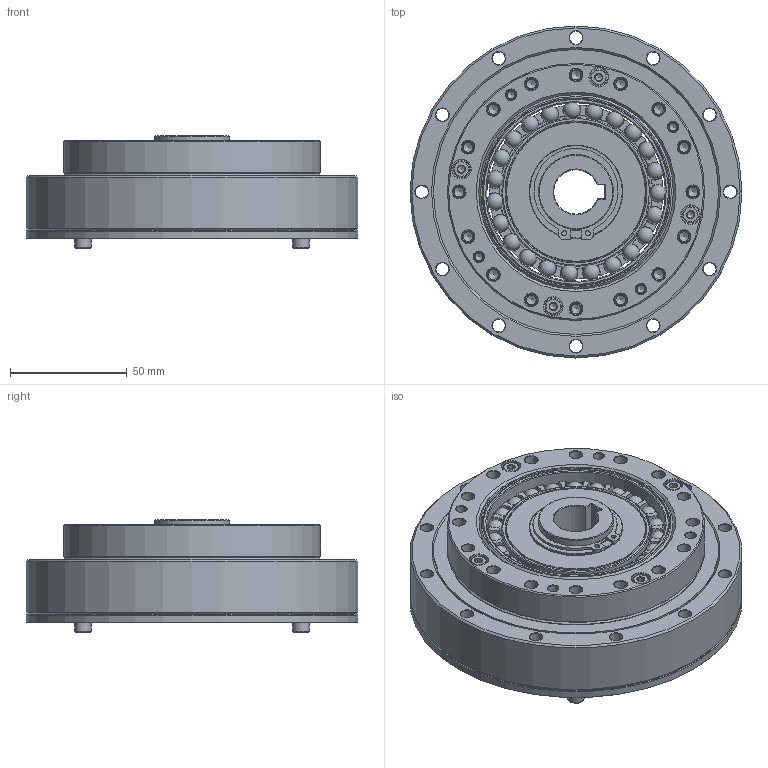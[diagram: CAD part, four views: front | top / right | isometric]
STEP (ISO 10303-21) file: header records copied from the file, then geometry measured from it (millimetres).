
FILE_DESCRIPTION(/* description */ (''),/* implementation_level */ '2;1');
FILE_NAME(/* name */ 'LHG-32-XX-U-II-φ19.stp',/* time_stamp */ '2023-07-08T16:08:51+08:00',/* author */ (''),/* organization */ (''),/* preprocessor_version */ 'ST-DEVELOPER v16.7',/* originating_system */ 'SIEMENS PLM Software NX 12.0',/* authorisation */ '');
FILE_SCHEMA (('AUTOMOTIVE_DESIGN { 1 0 10303 214 3 1 1 1 }'));
Length unit declared in the file: millimetre
Products named in the file (17): EB608012-32KC-46; EB608012-32KE-01; TC-110x122x6; O-120x1.5; O-90x1; GB-T70.1-2000,M4x10; GB-T70.1-2000,M4x16; 铜垫圈32.5x40x1; 轴用弹性挡圈φ32; CS-32-XX-03-A; CS-32-00-02-A; CSG-32-00-01-A-K19; 柔轮LHT-32; 刚轮LHT-32; EB608012-32KE; 交叉轴承LHT-32; LHG-32-XX-U-II-φ19
Assembly tree (22 placements, depth 3):
  LHG-32-XX-U-II-φ19
    交叉轴承LHT-32
      TC-110x122x6
    刚轮LHT-32
    柔轮LHT-32
    EB608012-32KE
      EB608012-32KE-01
      EB608012-32KC-46
    CSG-32-00-01-A-K19
    CS-32-00-02-A
    CS-32-XX-03-A
    轴用弹性挡圈φ32
    铜垫圈32.5x40x1
    GB-T70.1-2000,M4x16  x4
    GB-T70.1-2000,M4x10  x4
    O-90x1
    O-120x1.5
Bounding box: 142 x 142 x 48 mm (x, y, z)
Volume: 335480.3 mm3; surface area: 189347.8 mm2
Topology: 46 solids, 46 shells, 956 faces, 2282 edges, 1401 vertices
Faces by surface type: plane 320, cone 288, cylinder 232, torus 91, sphere 23, revolution 2
Full cylindrical faces by diameter (mm): 2.133 x2, 3.3 x16, 3.838 x8, 4.2 x16, 4.5 x16, 5.5 x40, 7 x8, 8 x4, 30.3 x1, 32 x2, 32.5 x3, 40 x1, 53 x2, 60 x2, 63.6 x2, 65.5 x1, 69.5 x1, 74.3 x1, 76.45 x2, 80 x2, 80.92 x1, 82.91 x1, 83.247 x1, 86 x1, 88 x2, 88.5 x1, 90 x1, 92.6 x1, 101 x1, 109.5 x1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
Entity records: 22502 total; most frequent: CARTESIAN_POINT 5050, DIRECTION 3722, ORIENTED_EDGE 2758, AXIS2_PLACEMENT_3D 1665, EDGE_CURVE 1379, EDGE_LOOP 1328, VERTEX_POINT 1118, FACE_BOUND 1065
